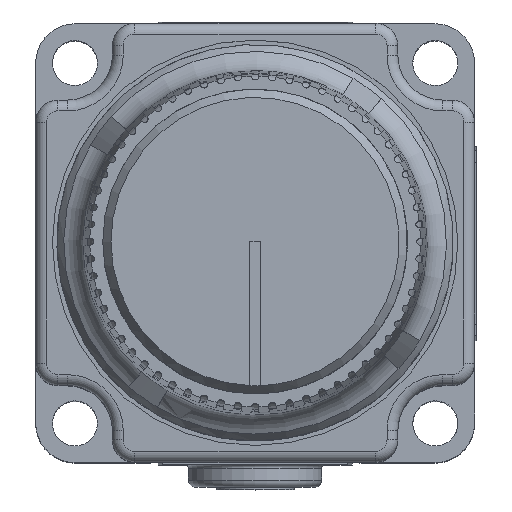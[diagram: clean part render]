
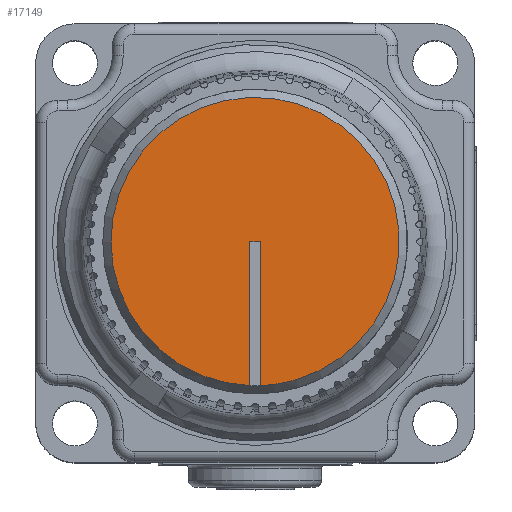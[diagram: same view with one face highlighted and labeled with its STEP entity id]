
A CAD part, top view. The second image highlights one B-rep face of the part: STEP entity #17149.
In plain terms, the highlighted planar face has unit normal (0, 0, 1).
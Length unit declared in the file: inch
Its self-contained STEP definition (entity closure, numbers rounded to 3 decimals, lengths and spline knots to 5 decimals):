
#846=PLANE('',#18720);
#1576=FACE_OUTER_BOUND('',#2570,.T.);
#2570=EDGE_LOOP('',(#13330,#13331,#13332,#13333,#13334));
#3428=CIRCLE('',#18721,0.4);
#3429=CIRCLE('',#18722,0.4);
#4727=LINE('',#28810,#5965);
#4728=LINE('',#28816,#5966);
#4729=LINE('',#28817,#5967);
#5965=VECTOR('',#22658,0.3937);
#5966=VECTOR('',#22663,0.3937);
#5967=VECTOR('',#22664,0.3937);
#7358=VERTEX_POINT('',#28808);
#7359=VERTEX_POINT('',#28809);
#7360=VERTEX_POINT('',#28811);
#7361=VERTEX_POINT('',#28813);
#7362=VERTEX_POINT('',#28815);
#9458=EDGE_CURVE('',#7358,#7359,#4727,.T.);
#9459=EDGE_CURVE('',#7359,#7360,#3428,.T.);
#9460=EDGE_CURVE('',#7360,#7361,#3429,.T.);
#9461=EDGE_CURVE('',#7361,#7362,#4728,.T.);
#9462=EDGE_CURVE('',#7362,#7358,#4729,.T.);
#13330=ORIENTED_EDGE('',*,*,#9458,.T.);
#13331=ORIENTED_EDGE('',*,*,#9459,.T.);
#13332=ORIENTED_EDGE('',*,*,#9460,.T.);
#13333=ORIENTED_EDGE('',*,*,#9461,.T.);
#13334=ORIENTED_EDGE('',*,*,#9462,.T.);
#17149=ADVANCED_FACE('',(#1576),#846,.T.);
#18720=AXIS2_PLACEMENT_3D('',#28807,#22656,#22657);
#18721=AXIS2_PLACEMENT_3D('',#28812,#22659,#22660);
#18722=AXIS2_PLACEMENT_3D('',#28814,#22661,#22662);
#22656=DIRECTION('center_axis',(0.,0.,1.));
#22657=DIRECTION('ref_axis',(1.,0.,0.));
#22658=DIRECTION('',(0.,-1.,0.));
#22659=DIRECTION('center_axis',(0.,0.,
1.));
#22660=DIRECTION('ref_axis',(0.325,0.946,0.));
#22661=DIRECTION('center_axis',(0.,0.,
1.));
#22662=DIRECTION('ref_axis',(0.325,0.946,0.));
#22663=DIRECTION('',(0.,1.,0.));
#22664=DIRECTION('',(1.,0.,0.));
#28807=CARTESIAN_POINT('Origin',(-0.38311,-0.50236,
1.82375));
#28808=CARTESIAN_POINT('',(-0.36811,-0.10225,1.82375));
#28809=CARTESIAN_POINT('',(-0.36811,-0.50197,1.82375));
#28810=CARTESIAN_POINT('',(-0.36811,-0.10225,1.82375));
#28811=CARTESIAN_POINT('',(-0.26893,-0.48561,1.82375));
#28812=CARTESIAN_POINT('Origin',(-0.38311,-0.10225,
1.82375));
#28813=CARTESIAN_POINT('',(-0.39811,-0.50197,1.82375));
#28814=CARTESIAN_POINT('Origin',(-0.38311,-0.10225,
1.82375));
#28815=CARTESIAN_POINT('',(-0.39811,-0.10225,1.82375));
#28816=CARTESIAN_POINT('',(-0.39811,-0.50197,1.82375));
#28817=CARTESIAN_POINT('',(-0.39811,-0.10225,1.82375));
